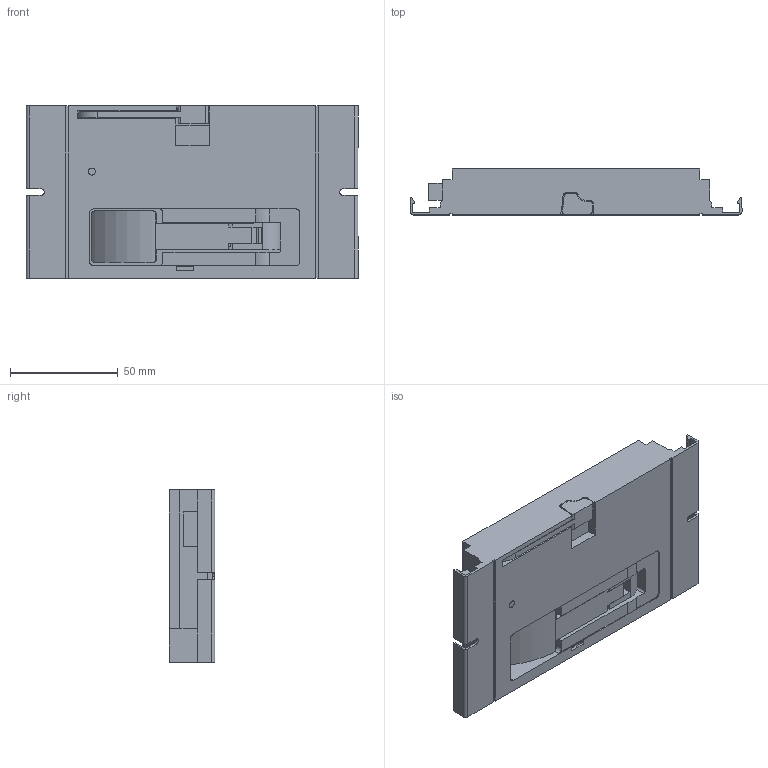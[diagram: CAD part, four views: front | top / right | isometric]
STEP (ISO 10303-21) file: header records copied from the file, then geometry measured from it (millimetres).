
FILE_DESCRIPTION (( 'STEP AP214' ), '1' );
FILE_NAME ('Ausschiebeeinheit.STEP', '2010-10-18T11:00:47', ( 'grass' ), ( '' ), 'SwSTEP 2.0', 'SolidWorks 2010', '' );
FILE_SCHEMA (( 'AUTOMOTIVE_DESIGN' ));
Length unit declared in the file: millimetre
Products named in the file (1): Ausschiebeeinheit
Bounding box: 154 x 21.2 x 80.1 mm (x, y, z)
Volume: 191263 mm3; surface area: 49701.8 mm2
Topology: 1 solids, 3 shells, 234 faces, 670 edges, 445 vertices
Faces by surface type: plane 181, cylinder 53
Entity records: 7685 total; most frequent: CARTESIAN_POINT 1456, ORIENTED_EDGE 1340, DIRECTION 1229, EDGE_CURVE 670, VECTOR 553, LINE 553, VERTEX_POINT 445, AXIS2_PLACEMENT_3D 338
